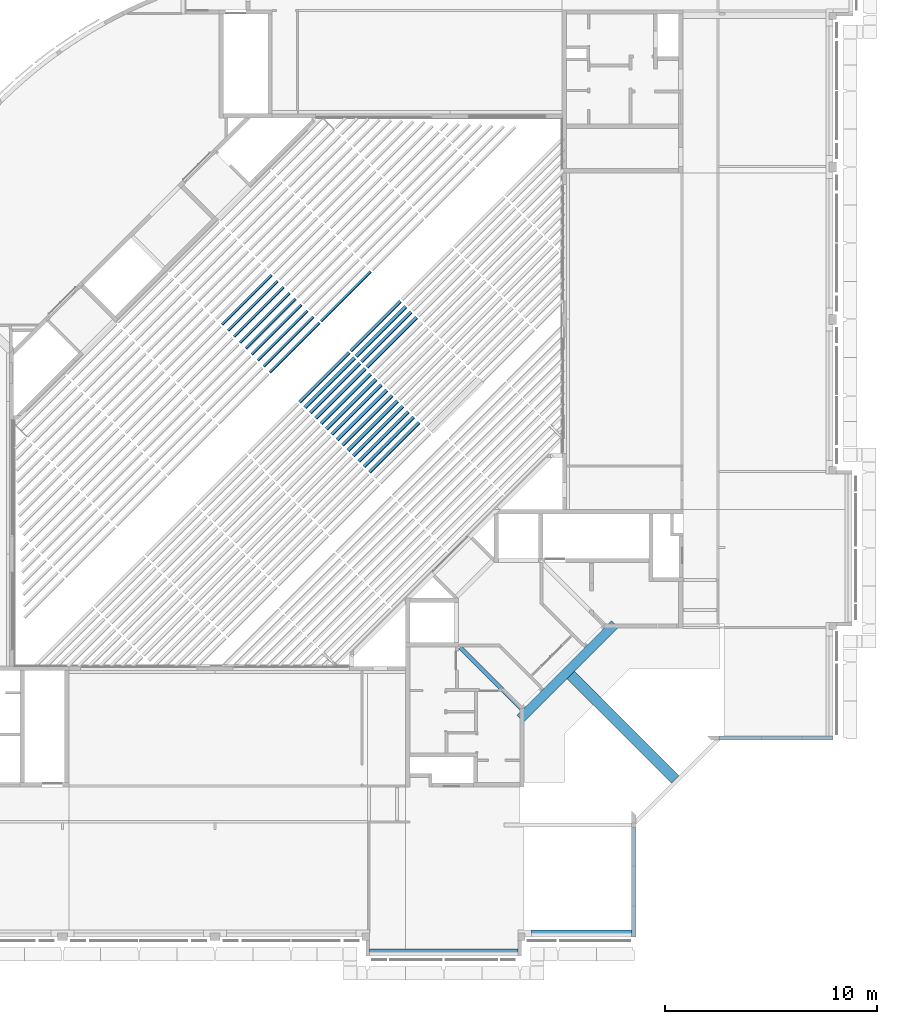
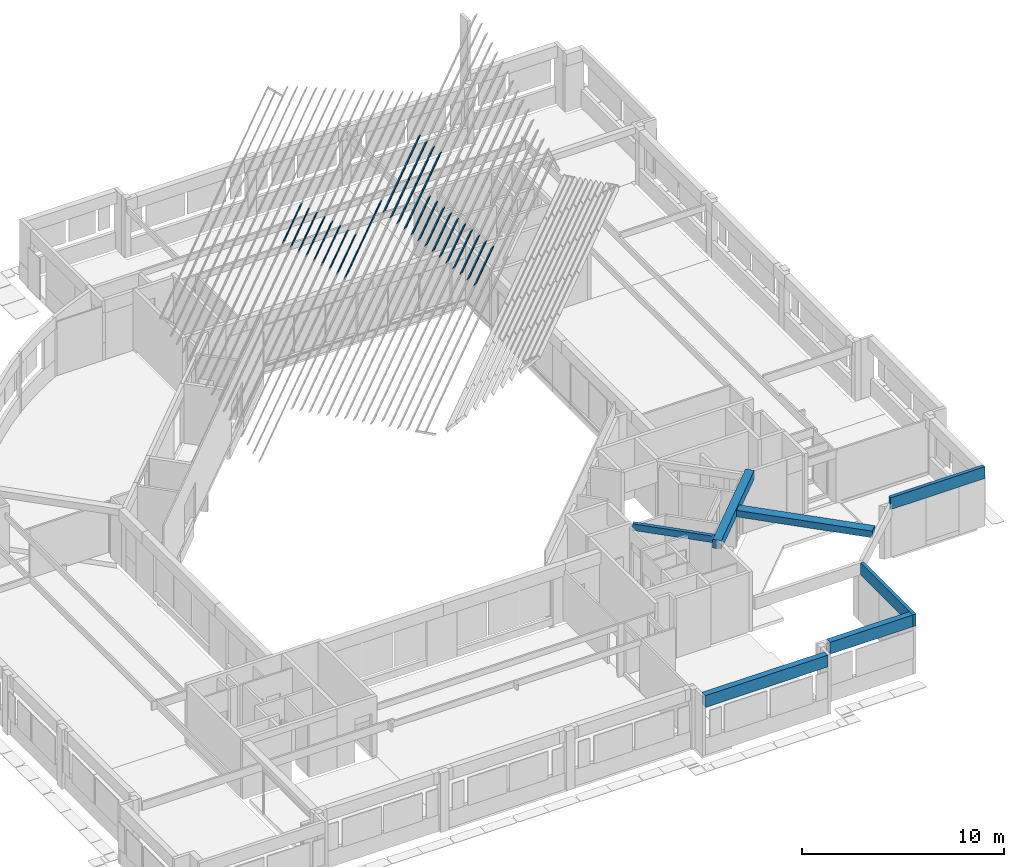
# One storey, part 8 of 37: 35 beams.
"""IFC4X3_ADD2 building model written with IfcOpenShell, lengths in millimetres."""

from ifc_helpers import new_model, si_unit, direction, frame, frame_2d, origin_with_axes, origin_2d_with_axis, place, context, subcontext, project, spatial, rectangle, extrude, source, transform, mapped, material, type_object, type_shapes, element, save


model = new_model("IFC4X3_ADD2")

# Units and contexts
model_context = context("Model", 3, precision=1e-05, world=origin_with_axes(), true_north=direction((0.0, 1.0)))
body_context = subcontext(model_context, "Body", "Model", "MODEL_VIEW")
ifc_project = project(units=[si_unit("LENGTHUNIT", "METRE", prefix="MILLI"), si_unit("AREAUNIT", "SQUARE_METRE"), si_unit("VOLUMEUNIT", "CUBIC_METRE"), si_unit("PLANEANGLEUNIT", "RADIAN"), si_unit("TIMEUNIT", "SECOND"), si_unit("MASSUNIT", "GRAM")], contexts=[model_context])

# Site, building, storey
site_placement = place(None, origin_with_axes())
site = spatial("IfcSite", under=ifc_project, at=site_placement, Name="Site", CompositionType="ELEMENT")
building_placement = place(site_placement, origin_with_axes())
building = spatial("IfcBuilding", under=site, at=building_placement, Name="IFC Building Story")
storey_placement = place(building_placement, frame((0.0, 0.0, 3600.0), z_axis=(0.0, 0.0, 1.0), x_axis=(1.0, 0.0, 0.0)))
storey = spatial("IfcBuildingStorey", under=building, at=storey_placement, Name="010", Elevation=3600.0)

# Beams
ifc_material_1 = material(Name="BB_Beton_Bestaand")
beam_type_1 = type_object("IfcBeamType", Name="BB_XX_Betonbalk_ rechthoekig_ center-center_SFB_340 x 720 mm93", PredefinedType="NOTDEFINED")
shared_shape_1 = source(origin_with_axes(), body_context, "Body", "SweptSolid", [
    extrude(rectangle(XDim=7010.0000000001, YDim=340.0, at=origin_2d_with_axis()), frame((-5.002220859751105e-12, 0.0, -360.0), z_axis=(0.0, 0.0, 1.0), x_axis=(1.0, 0.0, 0.0)), (0.0, 0.0, 1.0), 720.0),
])
type_shapes(beam_type_1, [shared_shape_1])
beam_1_placement = place(storey_placement, frame((-18300.0, -825.0, 3040.0), z_axis=(0.0, 0.0, 1.0), x_axis=(-1.0, 0.0, 0.0)))
element("IfcBeam", 1, at=beam_1_placement, inside=storey, type_object=beam_type_1, material=ifc_material_1, Name="BB_XX_Betonbalk, rechthoekig, center-center_SFB:340 x 720 mm", ObjectType="340 x 720 mm", PredefinedType="BEAM", context=body_context, shape_type="MappedRepresentation", body=[
    mapped(shared_shape_1, transform((0.0, 0.0, 0.0))),
])
beam_type_2 = type_object("IfcBeamType", Name="BB_XX_Betonbalk_ rechthoekig_ center-center_SFB_340 x 720 mm95", PredefinedType="NOTDEFINED")
shared_shape_2 = source(origin_with_axes(), body_context, "Body", "SweptSolid", [
    extrude(rectangle(XDim=4740.00000000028, YDim=340.0, at=origin_2d_with_axis()), frame((1.450644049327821e-10, 0.0, -360.0), z_axis=(0.0, 0.0, 1.0), x_axis=(1.0, 0.0, 0.0)), (0.0, 0.0, 1.0), 720.0),
])
type_shapes(beam_type_2, [shared_shape_2])
beam_2_placement = place(storey_placement, frame((-11785.0, 75.0, 3040.0), z_axis=(0.0, 0.0, 1.0), x_axis=(-1.0, 0.0, 0.0)))
element("IfcBeam", 2, at=beam_2_placement, inside=storey, type_object=beam_type_2, material=ifc_material_1, Name="BB_XX_Betonbalk, rechthoekig, center-center_SFB:340 x 720 mm", ObjectType="340 x 720 mm", PredefinedType="BEAM", context=body_context, shape_type="MappedRepresentation", body=[
    mapped(shared_shape_2, transform((0.0, 0.0, 0.0))),
])
beam_type_3 = type_object("IfcBeamType", Name="BB_XX_Betonbalk_ rechthoekig_ center-center_SFB_190 x 720 mm11", PredefinedType="NOTDEFINED")
shared_shape_3 = source(origin_with_axes(), body_context, "Body", "SweptSolid", [
    extrude(rectangle(XDim=5195.00000000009, YDim=189.9999999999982, at=frame_2d((0.0, 0.0), x_axis=(0.0, 1.0))), frame((-9320.0, 2502.500000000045, 6280.0), z_axis=(0.0, 0.0, 1.0), x_axis=(1.0, 0.0, 0.0)), (0.0, 0.0, 1.0), 720.0),
])
type_shapes(beam_type_3, [shared_shape_3])
beam_3_placement = place(storey_placement, frame((0.0, 0.0, -3600.0), z_axis=(0.0, 0.0, 1.0), x_axis=(1.0, 0.0, 0.0)))
element("IfcBeam", 3, at=beam_3_placement, inside=storey, type_object=beam_type_3, material=ifc_material_1, Name="BB_XX_Betonbalk, rechthoekig, center-center_SFB:190 x 720 mm", ObjectType="190 x 720 mm", PredefinedType="BEAM", context=body_context, shape_type="MappedRepresentation", body=[
    mapped(shared_shape_3, transform((0.0, 0.0, 0.0))),
])
beam_type_4 = type_object("IfcBeamType", Name="BB_XX_Betonbalk_ rechthoekig_ center-center_SFB_190 x 720 mm13", PredefinedType="NOTDEFINED")
shared_shape_4 = source(origin_with_axes(), body_context, "Body", "SweptSolid", [
    extrude(rectangle(XDim=5400.0, YDim=190.0, at=origin_2d_with_axis()), frame((-2605.0, 9320.00000000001, 6279.999999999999), z_axis=(0.0, 0.0, 1.0), x_axis=(1.0, 0.0, 0.0)), (0.0, 0.0, 1.0), 720.0),
])
type_shapes(beam_type_4, [shared_shape_4])
beam_4_placement = place(storey_placement, frame((0.0, 0.0, -3600.0), z_axis=(0.0, 0.0, 1.0), x_axis=(1.0, 0.0, 0.0)))
element("IfcBeam", 4, at=beam_4_placement, inside=storey, type_object=beam_type_4, material=ifc_material_1, Name="BB_XX_Betonbalk, rechthoekig, center-center_SFB:190 x 720 mm", ObjectType="190 x 720 mm", PredefinedType="BEAM", context=body_context, shape_type="MappedRepresentation", body=[
    mapped(shared_shape_4, transform((0.0, 0.0, 0.0))),
])
beam_type_5 = type_object("IfcBeamType", Name="BB_XX_Betonbalk_ rechthoekig_ center-center_SFB_450 x 520 mm", PredefinedType="NOTDEFINED")
shared_shape_5 = source(origin_with_axes(), body_context, "Body", "SweptSolid", [
    extrude(rectangle(XDim=6307.881315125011, YDim=449.9999999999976, at=frame_2d((0.0, 0.0), x_axis=(0.7071067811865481, 0.7071067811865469))), frame((-12443.43383217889, 12453.36811628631, 6600.0), z_axis=(0.0, 0.0, 1.0), x_axis=(1.0, 0.0, 0.0)), (0.0, 0.0, 1.0), 520.0),
])
type_shapes(beam_type_5, [shared_shape_5])
beam_5_placement = place(storey_placement, frame((0.0, 0.0, -3600.0), z_axis=(0.0, 0.0, 1.0), x_axis=(1.0, 0.0, 0.0)))
element("IfcBeam", 5, at=beam_5_placement, inside=storey, type_object=beam_type_5, material=ifc_material_1, Name="BB_XX_Betonbalk, rechthoekig, center-center_SFB:450 x 520 mm", ObjectType="450 x 520 mm", PredefinedType="BEAM", context=body_context, shape_type="MappedRepresentation", body=[
    mapped(shared_shape_5, transform((0.0, 0.0, 0.0))),
])
beam_type_6 = type_object("IfcBeamType", Name="BB_XX_Betonbalk_ rechthoekig_ center-center_SFB_500 x 400 mm", PredefinedType="NOTDEFINED")
shared_shape_6 = source(origin_with_axes(), body_context, "Body", "SweptSolid", [
    extrude(rectangle(XDim=6972.00449947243, YDim=500.0, at=origin_2d_with_axis()), frame((0.0, 0.0, -200.0), z_axis=(0.0, 0.0, 1.0), x_axis=(1.0, 0.0, 0.0)), (0.0, 0.0, 1.0), 400.0),
])
type_shapes(beam_type_6, [shared_shape_6])
beam_6_placement = place(storey_placement, frame((-9824.32611844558, 9824.32611844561, 3200.0), z_axis=(0.0, 0.0, 1.0), x_axis=(0.7071067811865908, -0.7071067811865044, 0.0)))
element("IfcBeam", 6, at=beam_6_placement, inside=storey, type_object=beam_type_6, material=ifc_material_1, Name="BB_XX_Betonbalk, rechthoekig, center-center_SFB:500 x 400 mm", ObjectType="400 x 500 mm", PredefinedType="BEAM", context=body_context, shape_type="MappedRepresentation", body=[
    mapped(shared_shape_6, transform((0.0, 0.0, 0.0))),
])
beam_type_7 = type_object("IfcBeamType", Name="BB_XX_Betonbalk_ rechthoekig_ center-center_SFB_200 x 400 mm1", PredefinedType="NOTDEFINED")
shared_shape_7 = source(origin_with_axes(), body_context, "Body", "SweptSolid", [
    extrude(rectangle(XDim=4184.062043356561, YDim=200.0000000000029, at=frame_2d((0.0, 0.0), x_axis=(-0.7071067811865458, 0.7071067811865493))), frame((-16049.99999999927, 12123.57864376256, 6720.0), z_axis=(0.0, 0.0, 1.0), x_axis=(1.0, 0.0, 0.0)), (0.0, 0.0, 1.0), 400.0),
])
type_shapes(beam_type_7, [shared_shape_7])
beam_7_placement = place(storey_placement, frame((0.0, 0.0, -3600.0), z_axis=(0.0, 0.0, 1.0), x_axis=(1.0, 0.0, 0.0)))
element("IfcBeam", 7, at=beam_7_placement, inside=storey, type_object=beam_type_7, material=ifc_material_1, Name="BB_XX_Betonbalk, rechthoekig, center-center_SFB:200 x 400 mm", ObjectType="200 mm x 400 mm", PredefinedType="BEAM", context=body_context, shape_type="MappedRepresentation", body=[
    mapped(shared_shape_7, transform((0.0, 0.0, 0.0))),
])
ifc_material_2 = material(Name="GVH_i2_naaldhout_generiek")
beam_type_8 = type_object("IfcBeamType", Name="28_SF_hout_rechthoekig_40 x 230_133", PredefinedType="NOTDEFINED")
shared_shape_8 = source(origin_with_axes(), body_context, "Body", "SweptSolid", [
    extrude(rectangle(XDim=3317.27000000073, YDim=40.0000000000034, at=origin_2d_with_axis()), frame((0.9033245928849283, 0.0, -115.0), z_axis=(0.0, 0.0, 1.0), x_axis=(1.0, 0.0, 0.0)), (0.0, 0.0, 1.0), 230.0),
])
type_shapes(beam_type_8, [shared_shape_8])
beam_8_placement = place(storey_placement, frame((-25338.2024420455, 27755.8499853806, 13650.1221194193), z_axis=(0.311937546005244, -0.311937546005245, 0.8974351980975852), x_axis=(-0.7071067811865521, -0.707106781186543, 0.0)))
element("IfcBeam", 8, at=beam_8_placement, inside=storey, type_object=beam_type_8, material=ifc_material_2, Name="28_SF_hout_rechthoekig:40 x 230", ObjectType="40 x 230", PredefinedType="BEAM", context=body_context, shape_type="MappedRepresentation", body=[
    mapped(shared_shape_8, transform((0.0, 0.0, 0.0))),
])
beam_type_9 = type_object("IfcBeamType", Name="28_SF_hout_rechthoekig_40 x 230_135", PredefinedType="NOTDEFINED")
shared_shape_9 = source(origin_with_axes(), body_context, "Body", "SweptSolid", [
    extrude(rectangle(XDim=3317.27000000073, YDim=40.0000000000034, at=origin_2d_with_axis()), frame((0.9032381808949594, 0.0, -115.0), z_axis=(0.0, 0.0, 1.0), x_axis=(1.0, 0.0, 0.0)), (0.0, 0.0, 1.0), 230.0),
])
type_shapes(beam_type_9, [shared_shape_9])
beam_9_placement = place(storey_placement, frame((-25619.1955793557, 28036.8431226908, 13845.4617046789), z_axis=(0.311937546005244, -0.311937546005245, 0.8974351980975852), x_axis=(-0.7071067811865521, -0.707106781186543, 0.0)))
element("IfcBeam", 9, at=beam_9_placement, inside=storey, type_object=beam_type_9, material=ifc_material_2, Name="28_SF_hout_rechthoekig:40 x 230", ObjectType="40 x 230", PredefinedType="BEAM", context=body_context, shape_type="MappedRepresentation", body=[
    mapped(shared_shape_9, transform((0.0, 0.0, 0.0))),
])
beam_type_10 = type_object("IfcBeamType", Name="28_SF_hout_rechthoekig_40 x 230_137", PredefinedType="NOTDEFINED")
shared_shape_10 = source(origin_with_axes(), body_context, "Body", "SweptSolid", [
    extrude(rectangle(XDim=3317.27000000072, YDim=40.0000000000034, at=origin_2d_with_axis()), frame((0.9031517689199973, 0.0, -115.0), z_axis=(0.0, 0.0, 1.0), x_axis=(1.0, 0.0, 0.0)), (0.0, 0.0, 1.0), 230.0),
])
type_shapes(beam_type_10, [shared_shape_10])
beam_10_placement = place(storey_placement, frame((-25900.1887166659, 28317.836260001, 14040.8012899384), z_axis=(0.311937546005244, -0.311937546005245, 0.8974351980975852), x_axis=(-0.7071067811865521, -0.707106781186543, 0.0)))
element("IfcBeam", 10, at=beam_10_placement, inside=storey, type_object=beam_type_10, material=ifc_material_2, Name="28_SF_hout_rechthoekig:40 x 230", ObjectType="40 x 230", PredefinedType="BEAM", context=body_context, shape_type="MappedRepresentation", body=[
    mapped(shared_shape_10, transform((0.0, 0.0, 0.0))),
])
beam_type_11 = type_object("IfcBeamType", Name="28_SF_hout_rechthoekig_40 x 230_139", PredefinedType="NOTDEFINED")
shared_shape_11 = source(origin_with_axes(), body_context, "Body", "SweptSolid", [
    extrude(rectangle(XDim=3317.27000000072, YDim=40.0000000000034, at=origin_2d_with_axis()), frame((0.9030653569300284, 0.0, -115.0), z_axis=(0.0, 0.0, 1.0), x_axis=(1.0, 0.0, 0.0)), (0.0, 0.0, 1.0), 230.0),
])
type_shapes(beam_type_11, [shared_shape_11])
beam_11_placement = place(storey_placement, frame((-26181.1818539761, 28598.8293973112, 14236.140875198), z_axis=(0.311937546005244, -0.311937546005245, 0.8974351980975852), x_axis=(-0.7071067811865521, -0.707106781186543, 0.0)))
element("IfcBeam", 11, at=beam_11_placement, inside=storey, type_object=beam_type_11, material=ifc_material_2, Name="28_SF_hout_rechthoekig:40 x 230", ObjectType="40 x 230", PredefinedType="BEAM", context=body_context, shape_type="MappedRepresentation", body=[
    mapped(shared_shape_11, transform((0.0, 0.0, 0.0))),
])
beam_type_12 = type_object("IfcBeamType", Name="28_SF_hout_rechthoekig_40 x 230_141", PredefinedType="NOTDEFINED")
shared_shape_12 = source(origin_with_axes(), body_context, "Body", "SweptSolid", [
    extrude(rectangle(XDim=3317.27000000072, YDim=40.0000000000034, at=origin_2d_with_axis()), frame((0.9029789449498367, 0.0, -115.0), z_axis=(0.0, 0.0, 1.0), x_axis=(1.0, 0.0, 0.0)), (0.0, 0.0, 1.0), 230.0),
])
type_shapes(beam_type_12, [shared_shape_12])
beam_12_placement = place(storey_placement, frame((-26462.1749912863, 28879.8225346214, 14431.4804604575), z_axis=(0.311937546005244, -0.311937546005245, 0.8974351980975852), x_axis=(-0.7071067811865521, -0.707106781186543, 0.0)))
element("IfcBeam", 12, at=beam_12_placement, inside=storey, type_object=beam_type_12, material=ifc_material_2, Name="28_SF_hout_rechthoekig:40 x 230", ObjectType="40 x 230", PredefinedType="BEAM", context=body_context, shape_type="MappedRepresentation", body=[
    mapped(shared_shape_12, transform((0.0, 0.0, 0.0))),
])
beam_type_13 = type_object("IfcBeamType", Name="28_SF_hout_rechthoekig_40 x 230_143", PredefinedType="NOTDEFINED")
shared_shape_13 = source(origin_with_axes(), body_context, "Body", "SweptSolid", [
    extrude(rectangle(XDim=3317.27000000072, YDim=40.0000000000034, at=origin_2d_with_axis()), frame((0.9028925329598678, 0.0, -115.0), z_axis=(0.0, 0.0, 1.0), x_axis=(1.0, 0.0, 0.0)), (0.0, 0.0, 1.0), 230.0),
])
type_shapes(beam_type_13, [shared_shape_13])
beam_13_placement = place(storey_placement, frame((-26743.1681285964, 29160.8156719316, 14626.8200457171), z_axis=(0.311937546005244, -0.311937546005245, 0.8974351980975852), x_axis=(-0.7071067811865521, -0.707106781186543, 0.0)))
element("IfcBeam", 13, at=beam_13_placement, inside=storey, type_object=beam_type_13, material=ifc_material_2, Name="28_SF_hout_rechthoekig:40 x 230", ObjectType="40 x 230", PredefinedType="BEAM", context=body_context, shape_type="MappedRepresentation", body=[
    mapped(shared_shape_13, transform((0.0, 0.0, 0.0))),
])
beam_type_14 = type_object("IfcBeamType", Name="28_SF_hout_rechthoekig_40 x 230_145", PredefinedType="NOTDEFINED")
shared_shape_14 = source(origin_with_axes(), body_context, "Body", "SweptSolid", [
    extrude(rectangle(XDim=3317.27000000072, YDim=40.0000000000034, at=origin_2d_with_axis()), frame((0.9028061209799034, 0.0, -115.0), z_axis=(0.0, 0.0, 1.0), x_axis=(1.0, 0.0, 0.0)), (0.0, 0.0, 1.0), 230.0),
])
type_shapes(beam_type_14, [shared_shape_14])
beam_14_placement = place(storey_placement, frame((-27024.1612659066, 29441.8088092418, 14822.1596309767), z_axis=(0.311937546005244, -0.311937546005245, 0.8974351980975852), x_axis=(-0.7071067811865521, -0.707106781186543, 0.0)))
element("IfcBeam", 14, at=beam_14_placement, inside=storey, type_object=beam_type_14, material=ifc_material_2, Name="28_SF_hout_rechthoekig:40 x 230", ObjectType="40 x 230", PredefinedType="BEAM", context=body_context, shape_type="MappedRepresentation", body=[
    mapped(shared_shape_14, transform((0.0, 0.0, 0.0))),
])
beam_type_15 = type_object("IfcBeamType", Name="28_SF_hout_rechthoekig_40 x 230_147", PredefinedType="NOTDEFINED")
shared_shape_15 = source(origin_with_axes(), body_context, "Body", "SweptSolid", [
    extrude(rectangle(XDim=3317.27000000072, YDim=40.0000000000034, at=origin_2d_with_axis()), frame((0.902719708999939, 0.0, -115.0), z_axis=(0.0, 0.0, 1.0), x_axis=(1.0, 0.0, 0.0)), (0.0, 0.0, 1.0), 230.0),
])
type_shapes(beam_type_15, [shared_shape_15])
beam_15_placement = place(storey_placement, frame((-27305.1544032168, 29722.801946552, 15017.4992162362), z_axis=(0.311937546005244, -0.311937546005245, 0.8974351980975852), x_axis=(-0.7071067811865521, -0.707106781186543, 0.0)))
element("IfcBeam", 15, at=beam_15_placement, inside=storey, type_object=beam_type_15, material=ifc_material_2, Name="28_SF_hout_rechthoekig:40 x 230", ObjectType="40 x 230", PredefinedType="BEAM", context=body_context, shape_type="MappedRepresentation", body=[
    mapped(shared_shape_15, transform((0.0, 0.0, 0.0))),
])
beam_type_16 = type_object("IfcBeamType", Name="28_SF_hout_rechthoekig_40 x 230_149", PredefinedType="NOTDEFINED")
shared_shape_16 = source(origin_with_axes(), body_context, "Body", "SweptSolid", [
    extrude(rectangle(XDim=3317.27000000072, YDim=40.0000000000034, at=origin_2d_with_axis()), frame((0.9026332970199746, 0.0, -115.0), z_axis=(0.0, 0.0, 1.0), x_axis=(1.0, 0.0, 0.0)), (0.0, 0.0, 1.0), 230.0),
])
type_shapes(beam_type_16, [shared_shape_16])
beam_16_placement = place(storey_placement, frame((-27586.147540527, 30003.7950838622, 15212.8388014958), z_axis=(0.311937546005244, -0.311937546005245, 0.8974351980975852), x_axis=(-0.7071067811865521, -0.707106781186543, 0.0)))
element("IfcBeam", 16, at=beam_16_placement, inside=storey, type_object=beam_type_16, material=ifc_material_2, Name="28_SF_hout_rechthoekig:40 x 230", ObjectType="40 x 230", PredefinedType="BEAM", context=body_context, shape_type="MappedRepresentation", body=[
    mapped(shared_shape_16, transform((0.0, 0.0, 0.0))),
])
beam_type_17 = type_object("IfcBeamType", Name="28_SF_hout_rechthoekig_40 x 230_167", PredefinedType="NOTDEFINED")
shared_shape_17 = source(origin_with_axes(), body_context, "Body", "SweptSolid", [
    extrude(rectangle(XDim=3317.2799999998, YDim=40.0000000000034, at=origin_2d_with_axis()), frame((0.908324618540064, 0.0, -115.0), z_axis=(0.0, 0.0, 1.0), x_axis=(1.0, 0.0, 0.0)), (0.0, 0.0, 1.0), 230.0),
])
type_shapes(beam_type_17, [shared_shape_17])
beam_17_placement = place(storey_placement, frame((-22921.820580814, 30172.2318466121, 13650.1221194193), z_axis=(0.311937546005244, -0.311937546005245, 0.8974351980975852), x_axis=(-0.7071067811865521, -0.707106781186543, 0.0)))
element("IfcBeam", 17, at=beam_17_placement, inside=storey, type_object=beam_type_17, material=ifc_material_2, Name="28_SF_hout_rechthoekig:40 x 230", ObjectType="40 x 230", PredefinedType="BEAM", context=body_context, shape_type="MappedRepresentation", body=[
    mapped(shared_shape_17, transform((0.0, 0.0, 0.0))),
])
beam_type_18 = type_object("IfcBeamType", Name="28_SF_hout_rechthoekig_40 x 230_405", PredefinedType="NOTDEFINED")
shared_shape_18 = source(origin_with_axes(), body_context, "Body", "SweptSolid", [
    extrude(rectangle(XDim=3317.27000000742, YDim=40.0000000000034, at=origin_2d_with_axis()), frame((-37.31809626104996, 0.0, -115.0), z_axis=(0.0, 0.0, 1.0), x_axis=(1.0, 0.0, 0.0)), (0.0, 0.0, 1.0), 230.0),
])
type_shapes(beam_type_18, [shared_shape_18])
beam_18_placement = place(storey_placement, frame((-20653.8679247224, 23017.4720113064, 14417.1281961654), z_axis=(0.4307932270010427, -0.4307932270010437, 0.7929907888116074), x_axis=(-0.7071067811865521, -0.707106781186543, 0.0)))
element("IfcBeam", 18, at=beam_18_placement, inside=storey, type_object=beam_type_18, material=ifc_material_2, Name="28_SF_hout_rechthoekig:40 x 230", ObjectType="40 x 230", PredefinedType="BEAM", context=body_context, shape_type="MappedRepresentation", body=[
    mapped(shared_shape_18, transform((0.0, 0.0, 0.0))),
])
beam_type_19 = type_object("IfcBeamType", Name="28_SF_hout_rechthoekig_40 x 230_407", PredefinedType="NOTDEFINED")
shared_shape_19 = source(origin_with_axes(), body_context, "Body", "SweptSolid", [
    extrude(rectangle(XDim=3317.27000000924, YDim=40.0000000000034, at=origin_2d_with_axis()), frame((-37.31804519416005, 0.0, -115.0), z_axis=(0.0, 0.0, 1.0), x_axis=(1.0, 0.0, 0.0)), (0.0, 0.0, 1.0), 230.0),
])
type_shapes(beam_type_19, [shared_shape_19])
beam_19_placement = place(storey_placement, frame((-20907.8782360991, 23271.4823226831, 14693.1110279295), z_axis=(0.4307932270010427, -0.4307932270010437, 0.7929907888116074), x_axis=(-0.7071067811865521, -0.707106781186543, 0.0)))
element("IfcBeam", 19, at=beam_19_placement, inside=storey, type_object=beam_type_19, material=ifc_material_2, Name="28_SF_hout_rechthoekig:40 x 230", ObjectType="40 x 230", PredefinedType="BEAM", context=body_context, shape_type="MappedRepresentation", body=[
    mapped(shared_shape_19, transform((0.0, 0.0, 0.0))),
])
beam_type_20 = type_object("IfcBeamType", Name="28_SF_hout_rechthoekig_40 x 230_409", PredefinedType="NOTDEFINED")
shared_shape_20 = source(origin_with_axes(), body_context, "Body", "SweptSolid", [
    extrude(rectangle(XDim=3317.27000001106, YDim=40.0000000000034, at=origin_2d_with_axis()), frame((-37.31799412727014, 0.0, -115.0), z_axis=(0.0, 0.0, 1.0), x_axis=(1.0, 0.0, 0.0)), (0.0, 0.0, 1.0), 230.0),
])
type_shapes(beam_type_20, [shared_shape_20])
beam_20_placement = place(storey_placement, frame((-21161.8885474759, 23525.4926340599, 14969.0938596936), z_axis=(0.4307932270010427, -0.4307932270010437, 0.7929907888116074), x_axis=(-0.7071067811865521, -0.707106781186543, 0.0)))
element("IfcBeam", 20, at=beam_20_placement, inside=storey, type_object=beam_type_20, material=ifc_material_2, Name="28_SF_hout_rechthoekig:40 x 230", ObjectType="40 x 230", PredefinedType="BEAM", context=body_context, shape_type="MappedRepresentation", body=[
    mapped(shared_shape_20, transform((0.0, 0.0, 0.0))),
])
beam_type_21 = type_object("IfcBeamType", Name="28_SF_hout_rechthoekig_40 x 230_411", PredefinedType="NOTDEFINED")
shared_shape_21 = source(origin_with_axes(), body_context, "Body", "SweptSolid", [
    extrude(rectangle(XDim=3317.27000001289, YDim=40.0000000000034, at=origin_2d_with_axis()), frame((-37.31794306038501, 0.0, -115.0), z_axis=(0.0, 0.0, 1.0), x_axis=(1.0, 0.0, 0.0)), (0.0, 0.0, 1.0), 230.0),
])
type_shapes(beam_type_21, [shared_shape_21])
beam_21_placement = place(storey_placement, frame((-21415.8988588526, 23779.5029454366, 15245.0766914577), z_axis=(0.4307932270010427, -0.4307932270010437, 0.7929907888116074), x_axis=(-0.7071067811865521, -0.707106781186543, 0.0)))
element("IfcBeam", 21, at=beam_21_placement, inside=storey, type_object=beam_type_21, material=ifc_material_2, Name="28_SF_hout_rechthoekig:40 x 230", ObjectType="40 x 230", PredefinedType="BEAM", context=body_context, shape_type="MappedRepresentation", body=[
    mapped(shared_shape_21, transform((0.0, 0.0, 0.0))),
])
beam_type_22 = type_object("IfcBeamType", Name="28_SF_hout_rechthoekig_40 x 230_413", PredefinedType="NOTDEFINED")
shared_shape_22 = source(origin_with_axes(), body_context, "Body", "SweptSolid", [
    extrude(rectangle(XDim=3317.27000001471, YDim=40.0000000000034, at=origin_2d_with_axis()), frame((-37.31789199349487, 0.0, -115.0), z_axis=(0.0, 0.0, 1.0), x_axis=(1.0, 0.0, 0.0)), (0.0, 0.0, 1.0), 230.0),
])
type_shapes(beam_type_22, [shared_shape_22])
beam_22_placement = place(storey_placement, frame((-21669.9091702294, 24033.5132568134, 15521.0595232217), z_axis=(0.4307932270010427, -0.4307932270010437, 0.7929907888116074), x_axis=(-0.7071067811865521, -0.707106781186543, 0.0)))
element("IfcBeam", 22, at=beam_22_placement, inside=storey, type_object=beam_type_22, material=ifc_material_2, Name="28_SF_hout_rechthoekig:40 x 230", ObjectType="40 x 230", PredefinedType="BEAM", context=body_context, shape_type="MappedRepresentation", body=[
    mapped(shared_shape_22, transform((0.0, 0.0, 0.0))),
])
beam_type_23 = type_object("IfcBeamType", Name="28_SF_hout_rechthoekig_40 x 230_415", PredefinedType="NOTDEFINED")
shared_shape_23 = source(origin_with_axes(), body_context, "Body", "SweptSolid", [
    extrude(rectangle(XDim=3317.27000001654, YDim=40.0000000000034, at=origin_2d_with_axis()), frame((-37.31784092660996, 0.0, -115.0), z_axis=(0.0, 0.0, 1.0), x_axis=(1.0, 0.0, 0.0)), (0.0, 0.0, 1.0), 230.0),
])
type_shapes(beam_type_23, [shared_shape_23])
beam_23_placement = place(storey_placement, frame((-21923.9194816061, 24287.5235681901, 15797.0423549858), z_axis=(0.4307932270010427, -0.4307932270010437, 0.7929907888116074), x_axis=(-0.7071067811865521, -0.707106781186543, 0.0)))
element("IfcBeam", 23, at=beam_23_placement, inside=storey, type_object=beam_type_23, material=ifc_material_2, Name="28_SF_hout_rechthoekig:40 x 230", ObjectType="40 x 230", PredefinedType="BEAM", context=body_context, shape_type="MappedRepresentation", body=[
    mapped(shared_shape_23, transform((0.0, 0.0, 0.0))),
])
beam_type_24 = type_object("IfcBeamType", Name="28_SF_hout_rechthoekig_40 x 230_417", PredefinedType="NOTDEFINED")
shared_shape_24 = source(origin_with_axes(), body_context, "Body", "SweptSolid", [
    extrude(rectangle(XDim=3317.27000001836, YDim=40.0000000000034, at=origin_2d_with_axis()), frame((-37.31778985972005, 0.0, -115.0), z_axis=(0.0, 0.0, 1.0), x_axis=(1.0, 0.0, 0.0)), (0.0, 0.0, 1.0), 230.0),
])
type_shapes(beam_type_24, [shared_shape_24])
beam_24_placement = place(storey_placement, frame((-22177.9297929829, 24541.5338795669, 16073.0251867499), z_axis=(0.4307932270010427, -0.4307932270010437, 0.7929907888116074), x_axis=(-0.7071067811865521, -0.707106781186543, 0.0)))
element("IfcBeam", 24, at=beam_24_placement, inside=storey, type_object=beam_type_24, material=ifc_material_2, Name="28_SF_hout_rechthoekig:40 x 230", ObjectType="40 x 230", PredefinedType="BEAM", context=body_context, shape_type="MappedRepresentation", body=[
    mapped(shared_shape_24, transform((0.0, 0.0, 0.0))),
])
beam_type_25 = type_object("IfcBeamType", Name="28_SF_hout_rechthoekig_40 x 230_419", PredefinedType="NOTDEFINED")
shared_shape_25 = source(origin_with_axes(), body_context, "Body", "SweptSolid", [
    extrude(rectangle(XDim=3317.27000002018, YDim=40.0000000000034, at=origin_2d_with_axis()), frame((-37.31773879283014, 0.0, -115.0), z_axis=(0.0, 0.0, 1.0), x_axis=(1.0, 0.0, 0.0)), (0.0, 0.0, 1.0), 230.0),
])
type_shapes(beam_type_25, [shared_shape_25])
beam_25_placement = place(storey_placement, frame((-22431.9401043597, 24795.5441909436, 16349.008018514), z_axis=(0.4307932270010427, -0.4307932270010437, 0.7929907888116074), x_axis=(-0.7071067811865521, -0.707106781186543, 0.0)))
element("IfcBeam", 25, at=beam_25_placement, inside=storey, type_object=beam_type_25, material=ifc_material_2, Name="28_SF_hout_rechthoekig:40 x 230", ObjectType="40 x 230", PredefinedType="BEAM", context=body_context, shape_type="MappedRepresentation", body=[
    mapped(shared_shape_25, transform((0.0, 0.0, 0.0))),
])
beam_type_26 = type_object("IfcBeamType", Name="28_SF_hout_rechthoekig_40 x 230_421", PredefinedType="NOTDEFINED")
shared_shape_26 = source(origin_with_axes(), body_context, "Body", "SweptSolid", [
    extrude(rectangle(XDim=3317.27000002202, YDim=40.0000000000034, at=origin_2d_with_axis()), frame((-37.31768772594, 0.0, -115.0), z_axis=(0.0, 0.0, 1.0), x_axis=(1.0, 0.0, 0.0)), (0.0, 0.0, 1.0), 230.0),
])
type_shapes(beam_type_26, [shared_shape_26])
beam_26_placement = place(storey_placement, frame((-22685.9504157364, 25049.5545023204, 16624.9908502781), z_axis=(0.4307932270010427, -0.4307932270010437, 0.7929907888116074), x_axis=(-0.7071067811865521, -0.707106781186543, 0.0)))
element("IfcBeam", 26, at=beam_26_placement, inside=storey, type_object=beam_type_26, material=ifc_material_2, Name="28_SF_hout_rechthoekig:40 x 230", ObjectType="40 x 230", PredefinedType="BEAM", context=body_context, shape_type="MappedRepresentation", body=[
    mapped(shared_shape_26, transform((0.0, 0.0, 0.0))),
])
beam_type_27 = type_object("IfcBeamType", Name="28_SF_hout_rechthoekig_40 x 230_423", PredefinedType="NOTDEFINED")
shared_shape_27 = source(origin_with_axes(), body_context, "Body", "SweptSolid", [
    extrude(rectangle(XDim=3317.27000002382, YDim=40.0000000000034, at=origin_2d_with_axis()), frame((-37.31763665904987, 0.0, -115.0), z_axis=(0.0, 0.0, 1.0), x_axis=(1.0, 0.0, 0.0)), (0.0, 0.0, 1.0), 230.0),
])
type_shapes(beam_type_27, [shared_shape_27])
beam_27_placement = place(storey_placement, frame((-22939.9607271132, 25303.5648136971, 16900.9736820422), z_axis=(0.4307932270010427, -0.4307932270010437, 0.7929907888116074), x_axis=(-0.7071067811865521, -0.707106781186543, 0.0)))
element("IfcBeam", 27, at=beam_27_placement, inside=storey, type_object=beam_type_27, material=ifc_material_2, Name="28_SF_hout_rechthoekig:40 x 230", ObjectType="40 x 230", PredefinedType="BEAM", context=body_context, shape_type="MappedRepresentation", body=[
    mapped(shared_shape_27, transform((0.0, 0.0, 0.0))),
])
beam_type_28 = type_object("IfcBeamType", Name="28_SF_hout_rechthoekig_40 x 230_425", PredefinedType="NOTDEFINED")
shared_shape_28 = source(origin_with_axes(), body_context, "Body", "SweptSolid", [
    extrude(rectangle(XDim=3317.27000002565, YDim=40.0000000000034, at=origin_2d_with_axis()), frame((-37.31758559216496, 0.0, -115.0), z_axis=(0.0, 0.0, 1.0), x_axis=(1.0, 0.0, 0.0)), (0.0, 0.0, 1.0), 230.0),
])
type_shapes(beam_type_28, [shared_shape_28])
beam_28_placement = place(storey_placement, frame((-23193.9710384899, 25557.5751250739, 17176.9565138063), z_axis=(0.4307932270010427, -0.4307932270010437, 0.7929907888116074), x_axis=(-0.7071067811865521, -0.707106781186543, 0.0)))
element("IfcBeam", 28, at=beam_28_placement, inside=storey, type_object=beam_type_28, material=ifc_material_2, Name="28_SF_hout_rechthoekig:40 x 230", ObjectType="40 x 230", PredefinedType="BEAM", context=body_context, shape_type="MappedRepresentation", body=[
    mapped(shared_shape_28, transform((0.0, 0.0, 0.0))),
])
beam_type_29 = type_object("IfcBeamType", Name="28_SF_hout_rechthoekig_40 x 230_427", PredefinedType="NOTDEFINED")
shared_shape_29 = source(origin_with_axes(), body_context, "Body", "SweptSolid", [
    extrude(rectangle(XDim=3317.27000002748, YDim=40.0000000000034, at=origin_2d_with_axis()), frame((-37.31753452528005, 0.0, -115.0), z_axis=(0.0, 0.0, 1.0), x_axis=(1.0, 0.0, 0.0)), (0.0, 0.0, 1.0), 230.0),
])
type_shapes(beam_type_29, [shared_shape_29])
beam_29_placement = place(storey_placement, frame((-23447.9813498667, 25811.5854364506, 17452.9393455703), z_axis=(0.4307932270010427, -0.4307932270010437, 0.7929907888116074), x_axis=(-0.7071067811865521, -0.707106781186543, 0.0)))
element("IfcBeam", 29, at=beam_29_placement, inside=storey, type_object=beam_type_29, material=ifc_material_2, Name="28_SF_hout_rechthoekig:40 x 230", ObjectType="40 x 230", PredefinedType="BEAM", context=body_context, shape_type="MappedRepresentation", body=[
    mapped(shared_shape_29, transform((0.0, 0.0, 0.0))),
])
beam_type_30 = type_object("IfcBeamType", Name="28_SF_hout_rechthoekig_40 x 230_429", PredefinedType="NOTDEFINED")
shared_shape_30 = source(origin_with_axes(), body_context, "Body", "SweptSolid", [
    extrude(rectangle(XDim=3317.27000002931, YDim=40.0000000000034, at=origin_2d_with_axis()), frame((-37.31748345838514, 0.0, -115.0), z_axis=(0.0, 0.0, 1.0), x_axis=(1.0, 0.0, 0.0)), (0.0, 0.0, 1.0), 230.0),
])
type_shapes(beam_type_30, [shared_shape_30])
beam_30_placement = place(storey_placement, frame((-23701.9916612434, 26065.5957478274, 17728.9221773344), z_axis=(0.4307932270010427, -0.4307932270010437, 0.7929907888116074), x_axis=(-0.7071067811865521, -0.707106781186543, 0.0)))
element("IfcBeam", 30, at=beam_30_placement, inside=storey, type_object=beam_type_30, material=ifc_material_2, Name="28_SF_hout_rechthoekig:40 x 230", ObjectType="40 x 230", PredefinedType="BEAM", context=body_context, shape_type="MappedRepresentation", body=[
    mapped(shared_shape_30, transform((0.0, 0.0, 0.0))),
])
beam_type_31 = type_object("IfcBeamType", Name="28_SF_hout_rechthoekig_40 x 230_431", PredefinedType="NOTDEFINED")
shared_shape_31 = source(origin_with_axes(), body_context, "Body", "SweptSolid", [
    extrude(rectangle(XDim=3317.27000003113, YDim=40.0000000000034, at=origin_2d_with_axis()), frame((-37.317432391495, 0.0, -115.0), z_axis=(0.0, 0.0, 1.0), x_axis=(1.0, 0.0, 0.0)), (0.0, 0.0, 1.0), 230.0),
])
type_shapes(beam_type_31, [shared_shape_31])
beam_31_placement = place(storey_placement, frame((-23956.0019726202, 26319.6060592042, 18004.9050090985), z_axis=(0.4307932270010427, -0.4307932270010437, 0.7929907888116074), x_axis=(-0.7071067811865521, -0.707106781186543, 0.0)))
element("IfcBeam", 31, at=beam_31_placement, inside=storey, type_object=beam_type_31, material=ifc_material_2, Name="28_SF_hout_rechthoekig:40 x 230", ObjectType="40 x 230", PredefinedType="BEAM", context=body_context, shape_type="MappedRepresentation", body=[
    mapped(shared_shape_31, transform((0.0, 0.0, 0.0))),
])
beam_type_32 = type_object("IfcBeamType", Name="28_SF_hout_rechthoekig_40 x 230_455", PredefinedType="NOTDEFINED")
shared_shape_32 = source(origin_with_axes(), body_context, "Body", "SweptSolid", [
    extrude(rectangle(XDim=3317.27999997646, YDim=40.0000000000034, at=origin_2d_with_axis()), frame((-36.38417153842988, 0.0, -115.0), z_axis=(0.0, 0.0, 1.0), x_axis=(1.0, 0.0, 0.0)), (0.0, 0.0, 1.0), 230.0),
])
type_shapes(beam_type_32, [shared_shape_32])
beam_32_placement = place(storey_placement, frame((-20776.9326894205, 27974.6134741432, 17176.9565138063), z_axis=(0.4307932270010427, -0.4307932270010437, 0.7929907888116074), x_axis=(-0.7071067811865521, -0.707106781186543, 0.0)))
element("IfcBeam", 32, at=beam_32_placement, inside=storey, type_object=beam_type_32, material=ifc_material_2, Name="28_SF_hout_rechthoekig:40 x 230", ObjectType="40 x 230", PredefinedType="BEAM", context=body_context, shape_type="MappedRepresentation", body=[
    mapped(shared_shape_32, transform((0.0, 0.0, 0.0))),
])
beam_type_33 = type_object("IfcBeamType", Name="28_SF_hout_rechthoekig_40 x 230_457", PredefinedType="NOTDEFINED")
shared_shape_33 = source(origin_with_axes(), body_context, "Body", "SweptSolid", [
    extrude(rectangle(XDim=3317.2799999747, YDim=40.0000000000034, at=origin_2d_with_axis()), frame((-36.38412046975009, 0.0, -115.0), z_axis=(0.0, 0.0, 1.0), x_axis=(1.0, 0.0, 0.0)), (0.0, 0.0, 1.0), 230.0),
])
type_shapes(beam_type_33, [shared_shape_33])
beam_33_placement = place(storey_placement, frame((-21030.9430007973, 28228.62378552, 17452.9393455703), z_axis=(0.4307932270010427, -0.4307932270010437, 0.7929907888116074), x_axis=(-0.7071067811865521, -0.707106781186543, 0.0)))
element("IfcBeam", 33, at=beam_33_placement, inside=storey, type_object=beam_type_33, material=ifc_material_2, Name="28_SF_hout_rechthoekig:40 x 230", ObjectType="40 x 230", PredefinedType="BEAM", context=body_context, shape_type="MappedRepresentation", body=[
    mapped(shared_shape_33, transform((0.0, 0.0, 0.0))),
])
beam_type_34 = type_object("IfcBeamType", Name="28_SF_hout_rechthoekig_40 x 230_459", PredefinedType="NOTDEFINED")
shared_shape_34 = source(origin_with_axes(), body_context, "Body", "SweptSolid", [
    extrude(rectangle(XDim=3317.27999997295, YDim=40.0000000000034, at=origin_2d_with_axis()), frame((-36.38406940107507, 0.0, -115.0), z_axis=(0.0, 0.0, 1.0), x_axis=(1.0, 0.0, 0.0)), (0.0, 0.0, 1.0), 230.0),
])
type_shapes(beam_type_34, [shared_shape_34])
beam_34_placement = place(storey_placement, frame((-21284.953312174, 28482.6340968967, 17728.9221773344), z_axis=(0.4307932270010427, -0.4307932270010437, 0.7929907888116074), x_axis=(-0.7071067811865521, -0.707106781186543, 0.0)))
element("IfcBeam", 34, at=beam_34_placement, inside=storey, type_object=beam_type_34, material=ifc_material_2, Name="28_SF_hout_rechthoekig:40 x 230", ObjectType="40 x 230", PredefinedType="BEAM", context=body_context, shape_type="MappedRepresentation", body=[
    mapped(shared_shape_34, transform((0.0, 0.0, 0.0))),
])
beam_type_35 = type_object("IfcBeamType", Name="28_SF_hout_rechthoekig_40 x 230_461", PredefinedType="NOTDEFINED")
shared_shape_35 = source(origin_with_axes(), body_context, "Body", "SweptSolid", [
    extrude(rectangle(XDim=3317.2799999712, YDim=40.0000000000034, at=origin_2d_with_axis()), frame((-36.38401833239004, 0.0, -115.0), z_axis=(0.0, 0.0, 1.0), x_axis=(1.0, 0.0, 0.0)), (0.0, 0.0, 1.0), 230.0),
])
type_shapes(beam_type_35, [shared_shape_35])
beam_35_placement = place(storey_placement, frame((-21538.9636235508, 28736.6444082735, 18004.9050090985), z_axis=(0.4307932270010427, -0.4307932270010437, 0.7929907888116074), x_axis=(-0.7071067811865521, -0.707106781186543, 0.0)))
element("IfcBeam", 35, at=beam_35_placement, inside=storey, type_object=beam_type_35, material=ifc_material_2, Name="28_SF_hout_rechthoekig:40 x 230", ObjectType="40 x 230", PredefinedType="BEAM", context=body_context, shape_type="MappedRepresentation", body=[
    mapped(shared_shape_35, transform((0.0, 0.0, 0.0))),
])

save(model, "model.ifc")
